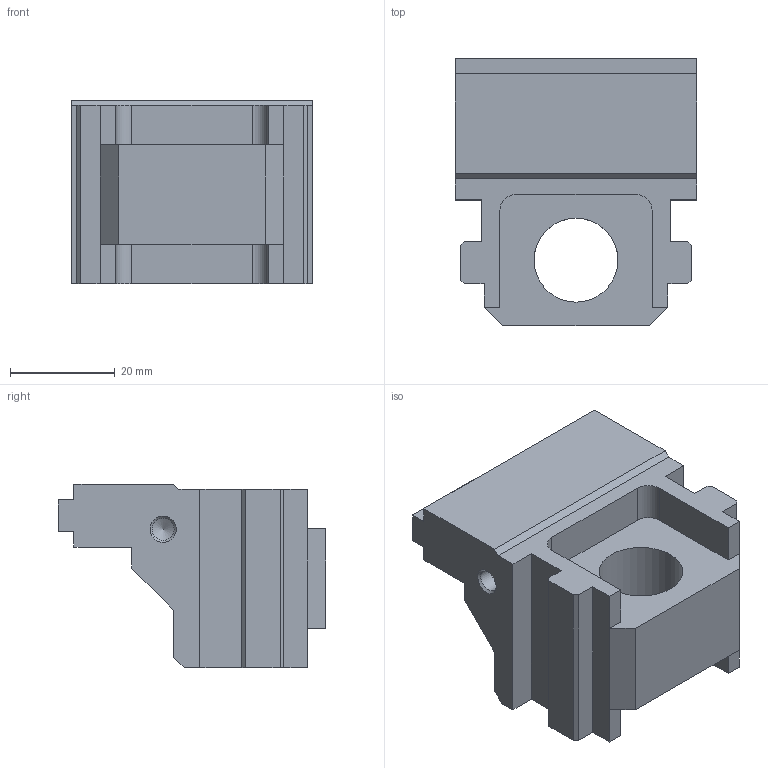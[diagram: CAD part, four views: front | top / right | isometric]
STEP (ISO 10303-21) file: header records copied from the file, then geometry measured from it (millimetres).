
FILE_DESCRIPTION (( 'STEP AP214' ), '1' );
FILE_NAME ('48077-4620.STEP', '2020-03-25T14:46:56', ( '' ), ( '' ), 'SwSTEP 2.0', 'SolidWorks 2019', '' );
FILE_SCHEMA (( 'AUTOMOTIVE_DESIGN' ));
Length unit declared in the file: millimetre
Products named in the file (1): 48077-4620
Bounding box: 46 x 51 x 35 mm (x, y, z)
Volume: 37670.9 mm3; surface area: 11643 mm2
Topology: 1 solids, 1 shells, 58 faces, 161 edges, 105 vertices
Faces by surface type: plane 47, cylinder 7, cone 4
Full cylindrical faces by diameter (mm): 4.2 x2, 16 x1
Entity records: 2439 total; most frequent: CARTESIAN_POINT 312, ORIENTED_EDGE 302, DIRECTION 285, EDGE_CURVE 151, VECTOR 135, LINE 135, VERTEX_POINT 102, AXIS2_PLACEMENT_3D 75
